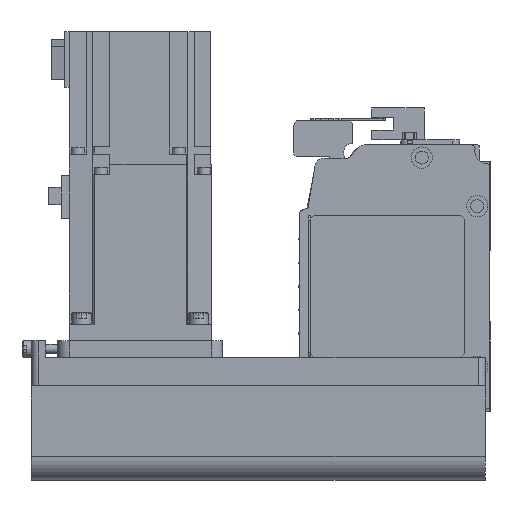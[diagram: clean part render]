
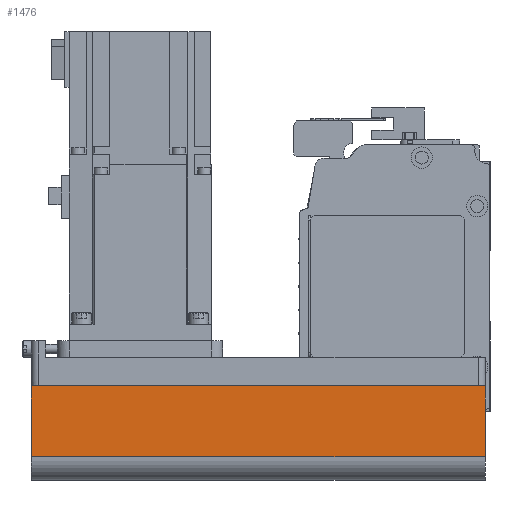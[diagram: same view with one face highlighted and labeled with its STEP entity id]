
A CAD part, left-side view. The second image highlights one B-rep face of the part: STEP entity #1476.
In plain terms, the highlighted planar face has unit normal (-1, 0, 0) as drawn and (0, -1, 0) by its records, which use the part's own axes.
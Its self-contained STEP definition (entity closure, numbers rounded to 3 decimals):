
#1476 = ADVANCED_FACE( '', ( #3351 ), #3352, .T. );
#3351 = FACE_OUTER_BOUND( '', #5719, .T. );
#3352 = PLANE( '', #5720 );
#5719 = EDGE_LOOP( '', ( #9724, #9725, #9726, #9727 ) );
#5720 = AXIS2_PLACEMENT_3D( '', #9728, #9729, #9730 );
#9724 = ORIENTED_EDGE( '', *, *, #14892, .F. );
#9725 = ORIENTED_EDGE( '', *, *, #14893, .F. );
#9726 = ORIENTED_EDGE( '', *, *, #14894, .T. );
#9727 = ORIENTED_EDGE( '', *, *, #14478, .T. );
#9728 = CARTESIAN_POINT( '', ( -192., -40., -12.1 ) );
#9729 = DIRECTION( '', ( 0., -1., 0. ) );
#9730 = DIRECTION( '', ( 0., 0., -1. ) );
#14478 = EDGE_CURVE( '', #17646, #17643, #17647, .T. );
#14892 = EDGE_CURVE( '', #18278, #17643, #18279, .T. );
#14893 = EDGE_CURVE( '', #16893, #18278, #18280, .T. );
#14894 = EDGE_CURVE( '', #16893, #17646, #18281, .T. );
#16893 = VERTEX_POINT( '', #20894 );
#17643 = VERTEX_POINT( '', #21901 );
#17646 = VERTEX_POINT( '', #21904 );
#17647 = LINE( '', #21905, #21906 );
#18278 = VERTEX_POINT( '', #22749 );
#18279 = LINE( '', #22750, #22751 );
#18280 = LINE( '', #22752, #22753 );
#18281 = LINE( '', #22754, #22755 );
#20894 = CARTESIAN_POINT( '', ( -192., -40., -12.1 ) );
#21901 = CARTESIAN_POINT( '', ( 0., -40., -42. ) );
#21904 = CARTESIAN_POINT( '', ( -192., -40., -42. ) );
#21905 = CARTESIAN_POINT( '', ( -192., -40., -42. ) );
#21906 = VECTOR( '', #25682, 1000. );
#22749 = CARTESIAN_POINT( '', ( 0., -40., -12.1 ) );
#22750 = CARTESIAN_POINT( '', ( 0., -40., -12.1 ) );
#22751 = VECTOR( '', #26201, 1000. );
#22752 = CARTESIAN_POINT( '', ( -192., -40., -12.1 ) );
#22753 = VECTOR( '', #26202, 1000. );
#22754 = CARTESIAN_POINT( '', ( -192., -40., -12.1 ) );
#22755 = VECTOR( '', #26203, 1000. );
#25682 = DIRECTION( '', ( 1., 0., 0. ) );
#26201 = DIRECTION( '', ( 0., 0., -1. ) );
#26202 = DIRECTION( '', ( 1., 0., 0. ) );
#26203 = DIRECTION( '', ( 0., 0., -1. ) );
